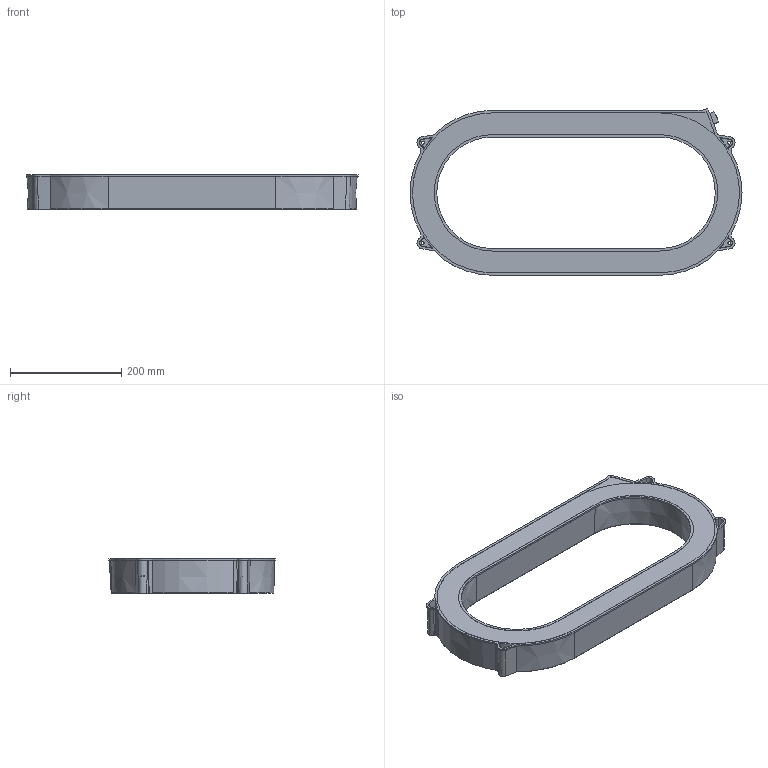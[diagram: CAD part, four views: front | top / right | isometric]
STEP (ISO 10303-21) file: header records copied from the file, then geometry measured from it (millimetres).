
FILE_DESCRIPTION((''),'2;1');
FILE_NAME('REP0001_SW0002','2020-11-09T11:58:29',('esors'),(''),'CREO PARAMETRIC BY PTC INC, 2018260','CREO PARAMETRIC BY PTC INC, 2018260','');
FILE_SCHEMA(('AUTOMOTIVE_DESIGN { 1 0 10303 214 1 1 1 1 }'));
Length unit declared in the file: millimetre
Products named in the file (1): REP0001_SW0002
Bounding box: 596 x 299 x 62 mm (x, y, z)
Volume: 3844616.2 mm3; surface area: 345646.9 mm2
Topology: 1 solids, 1 shells, 401 faces, 993 edges, 635 vertices
Faces by surface type: plane 175, cylinder 97, bspline 53, cone 39, torus 34, sphere 3
Entity records: 17359 total; most frequent: CARTESIAN_POINT 6429, ORIENTED_EDGE 1986, DIRECTION 1764, COLOUR_RGB 1579, EDGE_CURVE 993, AXIS2_PLACEMENT_3D 647, VERTEX_POINT 636, VECTOR 470
